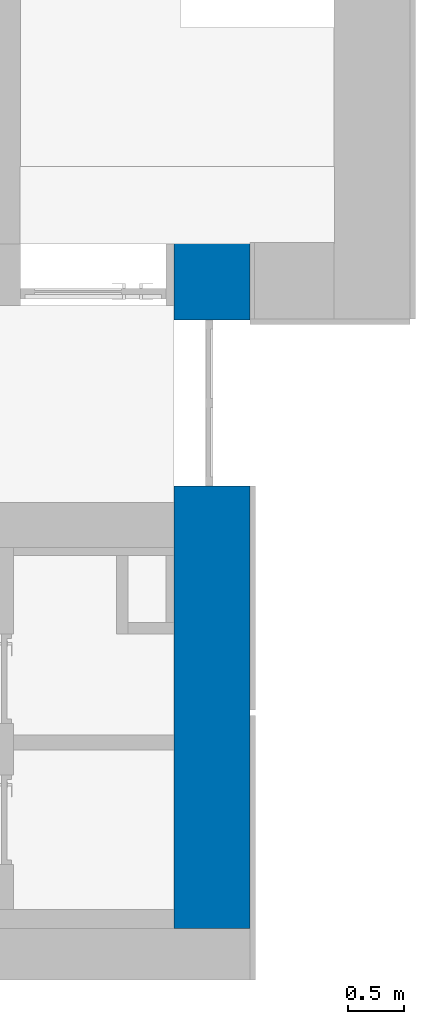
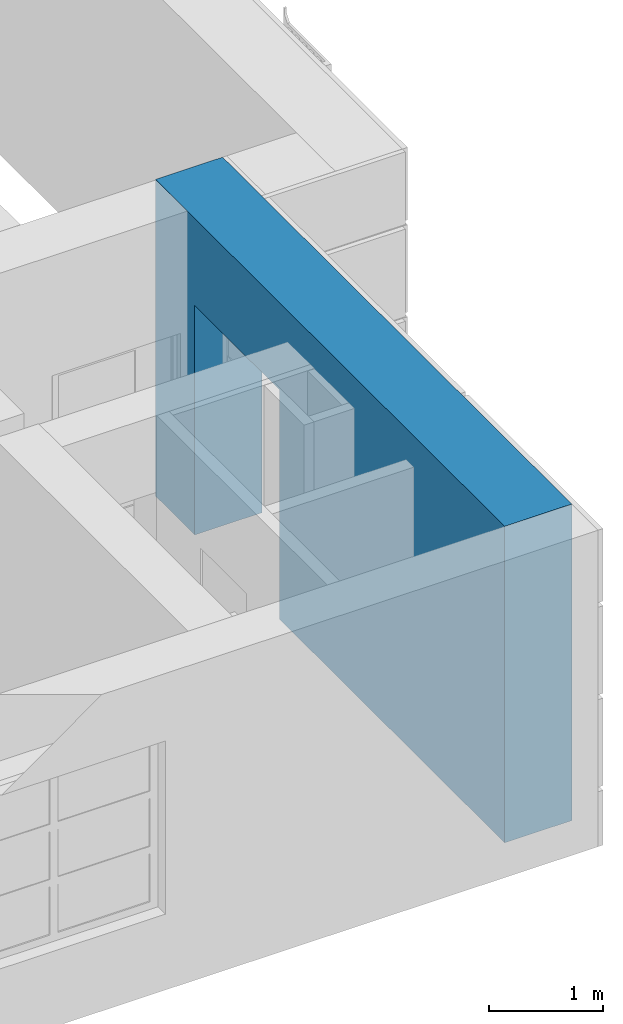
# One storey, part 57 of 66: 1 wall, 1 opening.
"""IFC2X3 building model written with IfcOpenShell, lengths in millimetres."""

from ifc_helpers import new_model, entity, si_unit, converted_unit, derived_unit, direction, frame, frame_2d, origin, place, context, subcontext, project, spatial, rectangle, extrude, material, layer, layer_set, layer_usage, type_object, element, save


model = new_model("IFC2X3")

# Units and contexts
model_context = context("Model", 3, precision=0.01, world=origin(), true_north=direction((6.12303176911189e-17, 1.0)))
body_context = subcontext(model_context, "Body", "Model", "MODEL_VIEW")
ifc_project = project(units=[si_unit("LENGTHUNIT", "METRE", prefix="MILLI"), si_unit("AREAUNIT", "SQUARE_METRE"), si_unit("VOLUMEUNIT", "CUBIC_METRE"), converted_unit("PLANEANGLEUNIT", "DEGREE", entity("IfcRatioMeasure", 0.0174532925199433), si_unit("PLANEANGLEUNIT", "RADIAN"), dimensions=[0, 0, 0, 0, 0, 0, 0]), si_unit("MASSUNIT", "GRAM", prefix="KILO"), derived_unit("MASSDENSITYUNIT", [(si_unit("MASSUNIT", "GRAM", prefix="KILO"), 1), (si_unit("LENGTHUNIT", "METRE"), -3)]), si_unit("TIMEUNIT", "SECOND"), si_unit("FREQUENCYUNIT", "HERTZ"), si_unit("THERMODYNAMICTEMPERATUREUNIT", "DEGREE_CELSIUS"), derived_unit("THERMALTRANSMITTANCEUNIT", [(si_unit("MASSUNIT", "GRAM", prefix="KILO"), 1), (si_unit("THERMODYNAMICTEMPERATUREUNIT", "KELVIN"), -1), (si_unit("TIMEUNIT", "SECOND"), -3)]), derived_unit("VOLUMETRICFLOWRATEUNIT", [(si_unit("LENGTHUNIT", "METRE"), 3), (si_unit("TIMEUNIT", "SECOND"), -1)]), si_unit("ELECTRICCURRENTUNIT", "AMPERE"), si_unit("ELECTRICVOLTAGEUNIT", "VOLT"), si_unit("POWERUNIT", "WATT"), si_unit("FORCEUNIT", "NEWTON", prefix="KILO"), si_unit("ILLUMINANCEUNIT", "LUX"), si_unit("LUMINOUSFLUXUNIT", "LUMEN"), si_unit("LUMINOUSINTENSITYUNIT", "CANDELA"), derived_unit("USERDEFINED", [(si_unit("MASSUNIT", "GRAM", prefix="KILO"), -1), (si_unit("LENGTHUNIT", "METRE"), -2), (si_unit("TIMEUNIT", "SECOND"), 3), (si_unit("LUMINOUSFLUXUNIT", "LUMEN"), 1)]), derived_unit("LINEARVELOCITYUNIT", [(si_unit("LENGTHUNIT", "METRE"), 1), (si_unit("TIMEUNIT", "SECOND"), -1)]), si_unit("PRESSUREUNIT", "PASCAL"), derived_unit("USERDEFINED", [(si_unit("LENGTHUNIT", "METRE"), -2), (si_unit("MASSUNIT", "GRAM", prefix="KILO"), 1), (si_unit("TIMEUNIT", "SECOND"), -2)])], contexts=[model_context])

# Site, building, storey
site_placement = place(None, frame((-151.875543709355, 2715.0, 0.0)))
site = spatial("IfcSite", under=ifc_project, at=site_placement, Name="Surface", CompositionType="ELEMENT")
building_placement = place(site_placement, origin())
building = spatial("IfcBuilding", under=site, at=building_placement, CompositionType="ELEMENT")
storey_placement = place(building_placement, frame((0.0, 0.0, 3350.0)))
storey = spatial("IfcBuildingStorey", under=building, at=storey_placement, Name="2 korrus", CompositionType="ELEMENT", Elevation=3350.00000000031)

# Wall, opening
ifc_material_1 = material(Name="__Tuuletõkkeplaat")
ifc_layer_1 = layer(ifc_material_1, 9.0)
ifc_material_2 = material(Name="__Soojustus EPS")
ifc_layer_2 = layer(ifc_material_2, 200.0)
ifc_material_3 = material(Name="Brick, Common")
ifc_layer_3 = layer(ifc_material_3, 450.0)
ifc_material_4 = material(Name="__Kips GN13_tava")
ifc_layer_4 = layer(ifc_material_4, 20.0)
ifc_layer_set = layer_set([ifc_layer_1, ifc_layer_2, ifc_layer_3, ifc_layer_4], Name="Basic Wall:VS-2_olemasolev sein fassaadikassettidega")
ifc_layer_usage = layer_usage(ifc_layer_set, "AXIS2", "POSITIVE", -339.5)
wall_type = type_object("IfcWallType", Name="Basic Wall:VS-2_olemasolev sein fassaadikassettidega", PredefinedType="STANDARD", material=ifc_layer_set)
wall_placement = place(storey_placement, frame((34081.1162682, 459.904632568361, 0.0), z_axis=(0.0, 0.0, 1.0), x_axis=(0.0, 1.0, 0.0)))
wall = element("IfcWallStandardCase", 1, at=wall_placement, inside=storey, type_object=wall_type, material=ifc_layer_usage, Name="SEIN - 003", ObjectType="Basic Wall:VS-2_olemasolev sein fassaadikassettidega", context=body_context, shape_type="SweptSolid", body=[
    extrude(rectangle(XDim=6110.09536743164, YDim=679.000000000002, at=frame_2d((3055.04768371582, 0.0), x_axis=(-1.0, 0.0))), origin(), (0.0, 0.0, 1.0), 3380.43203354),
])
opening_placement = place(wall_placement, frame((-459.904632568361, 34081.1162682, 0.0), z_axis=(0.0, 0.0, 1.0), x_axis=(0.0, -1.0, 0.0)))
element("IfcOpeningElement", 2, at=opening_placement, cuts=wall, Name="SEIN - 003", ObjectType="Opening", context=body_context, shape_type="SweptSolid", body=[
    extrude(rectangle(XDim=2450.0, YDim=1479.65663216, at=frame_2d((-3.41060513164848e-13, 2.8421709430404e-13), x_axis=(1.0, 0.0))), frame((34929.4162682, 5142.22928653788, 1225.0), z_axis=(-1.0, 0.0, 0.0), x_axis=(0.0, 0.0, 1.0)), (0.0, 0.0, 1.0), 1696.8),
])

save(model, "model.ifc")
